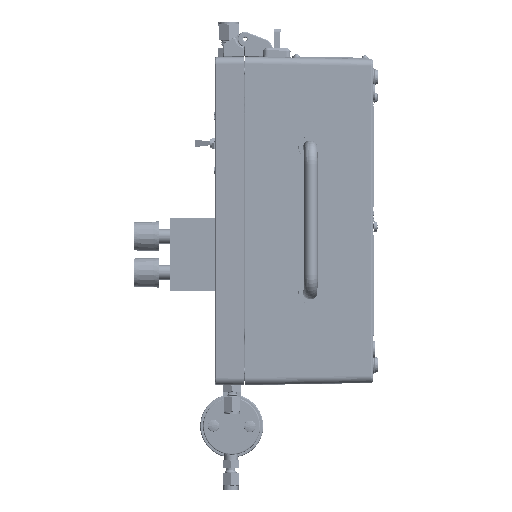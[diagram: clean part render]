
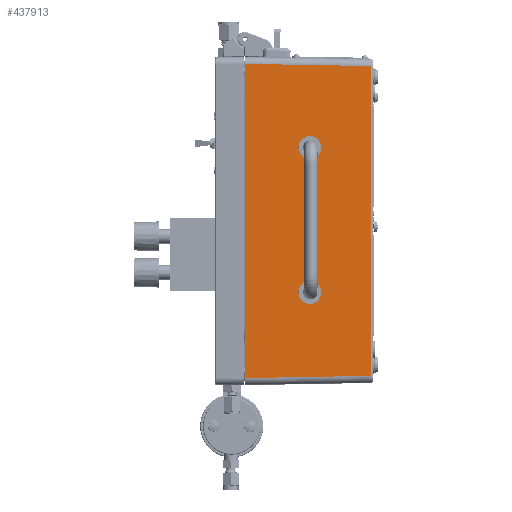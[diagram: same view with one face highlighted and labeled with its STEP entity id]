
A CAD part, left-side view. The second image highlights one B-rep face of the part: STEP entity #437913.
In plain terms, the highlighted planar face has unit normal (-1, -0.018, 0).
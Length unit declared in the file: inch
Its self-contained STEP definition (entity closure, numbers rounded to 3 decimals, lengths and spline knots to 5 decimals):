
#713 = EDGE_LOOP ( 'NONE', ( #54447, #386226 ) ) ;
#14475 = VERTEX_POINT ( 'NONE', #351836 ) ;
#15380 = ORIENTED_EDGE ( 'NONE', *, *, #149521, .F. ) ;
#20215 = EDGE_CURVE ( 'NONE', #62482, #182803, #235867, .T. ) ;
#30872 = CARTESIAN_POINT ( 'NONE',  ( 3.04617, 6.76288, 1.78445 ) ) ;
#32017 = VECTOR ( 'NONE', #379979, 39.37008 ) ;
#40937 = VECTOR ( 'NONE', #409808, 39.37008 ) ;
#43892 = AXIS2_PLACEMENT_3D ( 'NONE', #127765, #311230, #313690 ) ;
#48466 = ORIENTED_EDGE ( 'NONE', *, *, #313286, .F. ) ;
#54447 = ORIENTED_EDGE ( 'NONE', *, *, #186231, .F. ) ;
#62482 = VERTEX_POINT ( 'NONE', #252530 ) ;
#80475 = VERTEX_POINT ( 'NONE', #184023 ) ;
#83802 = DIRECTION ( 'NONE',  ( -1., -0.017, 0. ) ) ;
#90978 = DIRECTION ( 'NONE',  ( 0.017, -1., 0. ) ) ;
#118457 = FACE_BOUND ( 'NONE', #122798, .T. ) ;
#120942 = FACE_OUTER_BOUND ( 'NONE', #336223, .T. ) ;
#122798 = EDGE_LOOP ( 'NONE', ( #209457, #48466 ) ) ;
#127765 = CARTESIAN_POINT ( 'NONE',  ( 3.07756, 4.96486, 4.1428 ) ) ;
#135882 = EDGE_CURVE ( 'NONE', #144645, #281272, #275158, .T. ) ;
#144645 = VERTEX_POINT ( 'NONE', #448758 ) ;
#148941 = DIRECTION ( 'NONE',  ( 0.017, -1., 0. ) ) ;
#149521 = EDGE_CURVE ( 'NONE', #62482, #191184, #335500, .T. ) ;
#150779 = PLANE ( 'NONE',  #468374 ) ;
#159916 = CARTESIAN_POINT ( 'NONE',  ( 3.04623, 6.75945, 10.44598 ) ) ;
#162869 = CARTESIAN_POINT ( 'NONE',  ( 3.07756, 4.96486, 4.1428 ) ) ;
#167903 = CARTESIAN_POINT ( 'NONE',  ( 3.07756, 4.96486, 8.1428 ) ) ;
#172403 = CIRCLE ( 'NONE', #283132, 0.203 ) ;
#175782 = CARTESIAN_POINT ( 'NONE',  ( 3.04623, 6.75945, 10.6428 ) ) ;
#182803 = VERTEX_POINT ( 'NONE', #159916 ) ;
#184023 = CARTESIAN_POINT ( 'NONE',  ( 3.0811, 4.76189, 8.1428 ) ) ;
#186231 = EDGE_CURVE ( 'NONE', #281272, #144645, #439660, .T. ) ;
#191184 = VERTEX_POINT ( 'NONE', #324953 ) ;
#194634 = CIRCLE ( 'NONE', #250926, 0.203 ) ;
#195869 = AXIS2_PLACEMENT_3D ( 'NONE', #162869, #237188, #90978 ) ;
#207324 = VECTOR ( 'NONE', #264738, 39.37008 ) ;
#209457 = ORIENTED_EDGE ( 'NONE', *, *, #232433, .F. ) ;
#232433 = EDGE_CURVE ( 'NONE', #80475, #358837, #194634, .T. ) ;
#234908 = DIRECTION ( 'NONE',  ( 0.017, -1., 0. ) ) ;
#235867 = LINE ( 'NONE', #268171, #312589 ) ;
#237188 = DIRECTION ( 'NONE',  ( -1., -0.017, 0. ) ) ;
#250926 = AXIS2_PLACEMENT_3D ( 'NONE', #369521, #253087, #148941 ) ;
#252530 = CARTESIAN_POINT ( 'NONE',  ( 3.10707, 3.27417, 10.38515 ) ) ;
#253087 = DIRECTION ( 'NONE',  ( -1., -0.017, 0. ) ) ;
#257711 = ORIENTED_EDGE ( 'NONE', *, *, #20215, .T. ) ;
#264738 = DIRECTION ( 'NONE',  ( 0., 0., -1. ) ) ;
#268171 = CARTESIAN_POINT ( 'NONE',  ( 3.10707, 3.27417, 10.38515 ) ) ;
#270609 = DIRECTION ( 'NONE',  ( -0.017, 1., 0.017 ) ) ;
#275158 = CIRCLE ( 'NONE', #195869, 0.203 ) ;
#281272 = VERTEX_POINT ( 'NONE', #488011 ) ;
#283132 = AXIS2_PLACEMENT_3D ( 'NONE', #167903, #319087, #435403 ) ;
#287320 = LINE ( 'NONE', #175782, #207324 ) ;
#295971 = LINE ( 'NONE', #30872, #32017 ) ;
#311230 = DIRECTION ( 'NONE',  ( -1., -0.017, 0. ) ) ;
#312589 = VECTOR ( 'NONE', #270609, 39.37008 ) ;
#313286 = EDGE_CURVE ( 'NONE', #358837, #80475, #172403, .T. ) ;
#313690 = DIRECTION ( 'NONE',  ( 0.017, -1., 0. ) ) ;
#319087 = DIRECTION ( 'NONE',  ( -1., -0.017, 0. ) ) ;
#324953 = CARTESIAN_POINT ( 'NONE',  ( 3.10707, 3.27417, 1.84534 ) ) ;
#333758 = CARTESIAN_POINT ( 'NONE',  ( 3.07402, 5.16783, 8.1428 ) ) ;
#335500 = LINE ( 'NONE', #367779, #40937 ) ;
#336223 = EDGE_LOOP ( 'NONE', ( #257711, #468303, #420421, #15380 ) ) ;
#351836 = CARTESIAN_POINT ( 'NONE',  ( 3.04623, 6.75945, 1.78451 ) ) ;
#358837 = VERTEX_POINT ( 'NONE', #333758 ) ;
#367779 = CARTESIAN_POINT ( 'NONE',  ( 3.10707, 3.27417, 10.6428 ) ) ;
#369521 = CARTESIAN_POINT ( 'NONE',  ( 3.07756, 4.96486, 8.1428 ) ) ;
#379979 = DIRECTION ( 'NONE',  ( -0.017, 1., -0.017 ) ) ;
#386226 = ORIENTED_EDGE ( 'NONE', *, *, #135882, .F. ) ;
#402671 = EDGE_CURVE ( 'NONE', #182803, #14475, #287320, .T. ) ;
#409808 = DIRECTION ( 'NONE',  ( 0., 0., -1. ) ) ;
#420421 = ORIENTED_EDGE ( 'NONE', *, *, #433436, .F. ) ;
#423140 = FACE_BOUND ( 'NONE', #713, .T. ) ;
#433436 = EDGE_CURVE ( 'NONE', #191184, #14475, #295971, .T. ) ;
#435403 = DIRECTION ( 'NONE',  ( 0.017, -1., 0. ) ) ;
#437913 = ADVANCED_FACE ( 'NONE', ( #423140, #118457, #120942 ), #150779, .T. ) ;
#439660 = CIRCLE ( 'NONE', #43892, 0.203 ) ;
#448758 = CARTESIAN_POINT ( 'NONE',  ( 3.07402, 5.16783, 4.1428 ) ) ;
#453065 = CARTESIAN_POINT ( 'NONE',  ( 3.04623, 6.75945, 10.6428 ) ) ;
#468303 = ORIENTED_EDGE ( 'NONE', *, *, #402671, .T. ) ;
#468374 = AXIS2_PLACEMENT_3D ( 'NONE', #453065, #83802, #234908 ) ;
#488011 = CARTESIAN_POINT ( 'NONE',  ( 3.0811, 4.76189, 4.1428 ) ) ;
